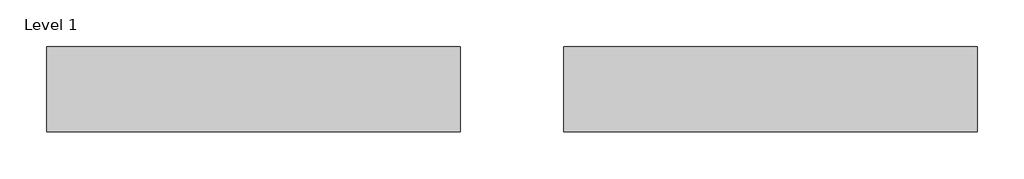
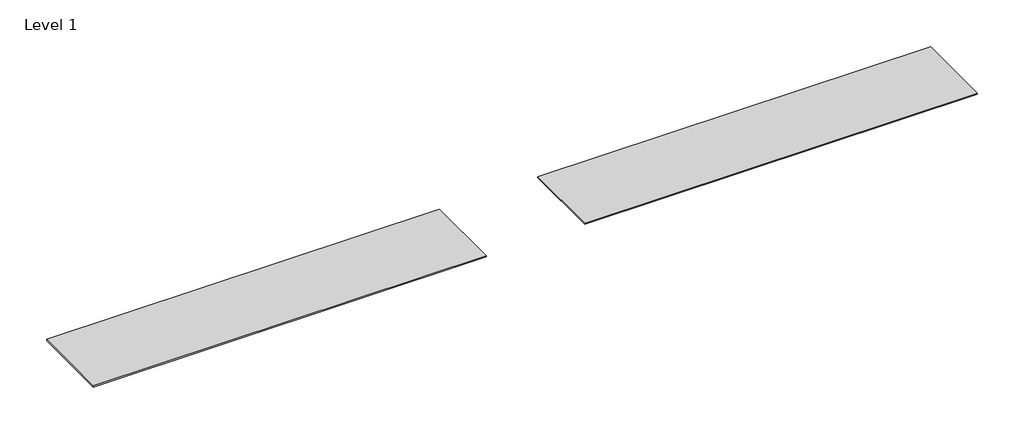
# One storey: 2 proxies.
"""IFC4 building model written with IfcOpenShell, lengths in millimetres."""

from ifc_helpers import new_model, si_unit, origin, place, context, project, spatial, transform, mapped, element, save
from components import generic_models_7f56e2ab

model = new_model("IFC4")

# Units and contexts
model_context = context("Model", 3, world=origin())
ifc_project = project(units=[si_unit("LENGTHUNIT", "METRE", prefix="MILLI")], contexts=[model_context])

# Site, building, storey
site = spatial("IfcSite", under=ifc_project)
building = spatial("IfcBuilding", under=site)
storey = spatial("IfcBuildingStorey", under=building, Name="Level 1", Elevation=0.0)

# Proxies
placement = place(None, origin())
generic_models_shape = generic_models_7f56e2ab(model_context)
element("IfcBuildingElementProxy", 1, Name="Indoor-Material_HIMACS_Gravilla : Solid-Surface-Material_HIMACS_Gravilla_GM01_Gravilla_Snow-12mm", ObjectType="Indoor-Material_HIMACS_Gravilla : Solid-Surface-Material_HIMACS_Gravilla_GM01_Gravilla_Snow-12mm", at=placement, inside=storey, context=model_context, shape_type="MappedRepresentation", body=[
    mapped(generic_models_shape, transform((-25932.0748674, 4227.8111796, 0.0), x_axis=(1.0, 0.0, 0.0), y_axis=(0.0, 1.0, 0.0), z_axis=(0.0, 0.0, 1.0))),
])
element("IfcBuildingElementProxy", 2, Name="Indoor-Material_HIMACS_Gravilla : Solid-Surface-Material_HIMACS_Gravilla_GM02_Gravilla_Cream-12mm", ObjectType="Indoor-Material_HIMACS_Gravilla : Solid-Surface-Material_HIMACS_Gravilla_GM02_Gravilla_Cream-12mm", at=placement, inside=storey, context=model_context, shape_type="MappedRepresentation", body=[
    mapped(generic_models_shape, transform((-21332.0748674, 4227.8111796, 0.0), x_axis=(1.0, 0.0, 0.0), y_axis=(0.0, 1.0, 0.0), z_axis=(0.0, 0.0, 1.0))),
])

save(model, "model.ifc")
